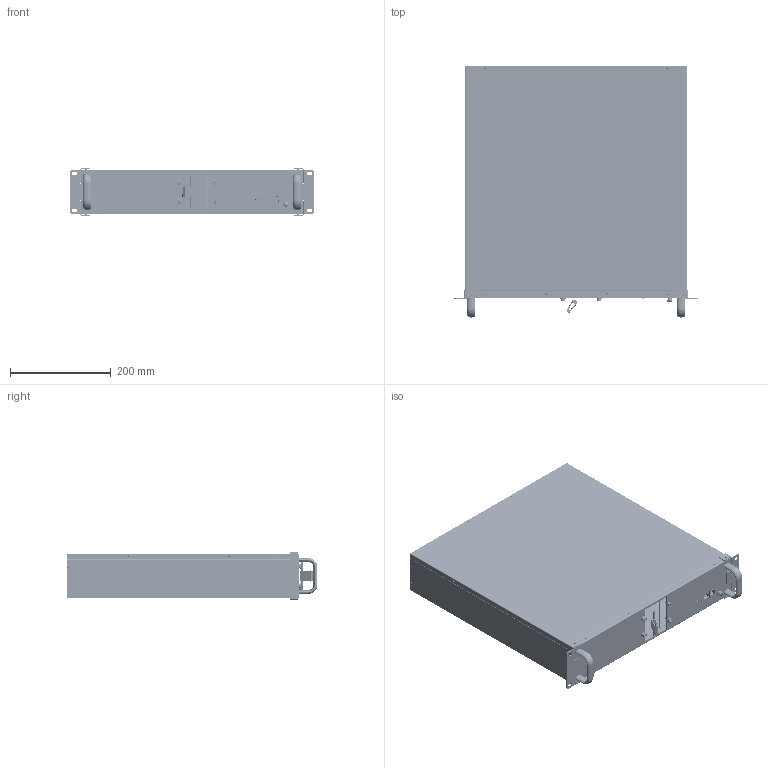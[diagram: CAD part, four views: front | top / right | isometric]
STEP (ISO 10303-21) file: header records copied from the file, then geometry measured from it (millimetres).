
FILE_DESCRIPTION((''),'2;1');
FILE_NAME('950-0049_BATTERY_MODULE_COMBINE_ASM','2023-11-24T11:39:17',('Administrator'),(''),'CREO PARAMETRIC BY PTC INC, 2019224','CREO PARAMETRIC BY PTC INC, 2019224','');
FILE_SCHEMA(('AUTOMOTIVE_DESIGN { 1 0 10303 214 1 1 1 1 }'));
Products named in the file (74): XIANGTI_10_4; PEM_NUT_M4_1_4; DIBAN-01_5_4; PEM_NUT_M3_2_4; 51_2_4; 35_2_4; 22_1_4; ZHIJIA-07_1_1_4; XIANGTI-00_ASM_11_ASM_4_ASM; MIANBAN_7_1_4; MIANBAN_7_2_4; MIANBAN_7_3_4; MIANBAN_7_4_4; MIANBAN_7_5_4; MIANBAN_7_6_4; MIANBAN_7_7_4; MIANBAN_7_8_4; MIANBAN_7_9_4; MIANBAN_7_ASM_4_ASM; LASHOU_1_4; MIANBAN-00_ASM_4_ASM_4_ASM; FA2-B0-16-825-12B-BG_1_7_4; FA2-B0-16-825-12B-BG_1_8_4; FA2-B0-16-825-12B-BG_1_15_4; FA2-B0-16-825-12B-BG_1_16_4; FA2-B0-16-825-12B-BG_1_17_4; FA2-B0-16-825-12B-BG_1_18_4; FA2-B0-16-825-12B-BG_1_19_4; FA2-B0-16-825-12B-BG_1_21_4; FA2-B0-16-825-12B-BG_1_22_4; FA2-B0-16-825-12B-BG_1_ASM_4_ASM; GAIBAN_3_4; GAIBAN-1_ASM_2_ASM_4_ASM; COPPER-1_ASM_6_ASM_4_ASM; M6X14_ASM_3_ASM_4_ASM; COPPER-5_ASM_3_ASM_4_ASM; ZHIJIA01_ASM_4_ASM_4_ASM; ZHIJIA02_ASM_3_ASM_4_ASM; COPPER-6_ASM_7_ASM_4_ASM; CON_RJ45_TH_TOP_ENTRY_NOSHIEL_1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
Assembly tree (200 placements, depth 8):
  950-0049_BATTERY_MODULE_COMBINE_ASM
    2U-CONBINER_BOX-1217_ASM_5_ASM
      2U-JIXIANG_ASM_25_ASM_4_ASM
        XIANGTI-00_ASM_11_ASM_4_ASM
          XIANGTI_10_4
          PEM_NUT_M4_1_4  x8
          DIBAN-01_5_4
          PEM_NUT_M3_2_4  x24
          51_2_4  x2
          35_2_4  x8
          22_1_4  x2
          ZHIJIA-07_1_1_4
        MIANBAN-00_ASM_4_ASM_4_ASM
          MIANBAN_7_ASM_4_ASM
            MIANBAN_7_1_4
            MIANBAN_7_2_4
            MIANBAN_7_3_4
            MIANBAN_7_4_4
            MIANBAN_7_5_4
            MIANBAN_7_6_4
            MIANBAN_7_7_4
            MIANBAN_7_8_4
            MIANBAN_7_9_4
          LASHOU_1_4  x2
          PEM_NUT_M4_1_4  x4
        FA2-B0-16-825-12B-BG_1_ASM_4_ASM
          FA2-B0-16-825-12B-BG_1_7_4
          FA2-B0-16-825-12B-BG_1_8_4
          FA2-B0-16-825-12B-BG_1_15_4
          FA2-B0-16-825-12B-BG_1_16_4
          FA2-B0-16-825-12B-BG_1_17_4
          FA2-B0-16-825-12B-BG_1_18_4
          FA2-B0-16-825-12B-BG_1_19_4
          FA2-B0-16-825-12B-BG_1_21_4
          FA2-B0-16-825-12B-BG_1_22_4
        GAIBAN-1_ASM_2_ASM_4_ASM
          GAIBAN_3_4
          PEM_NUT_M4_1_4  x4
        COPPER-1_ASM_6_ASM_4_ASM
        M6X14_ASM_3_ASM_4_ASM  x25
        COPPER-5_ASM_3_ASM_4_ASM
        ZHIJIA01_ASM_4_ASM_4_ASM
        ZHIJIA02_ASM_3_ASM_4_ASM
        COPPER-6_ASM_7_ASM_4_ASM
        PCB3_ASM_1_ASM_4_ASM
          PCB_ASM_1_ASM_4_ASM
            P2_ASM_1_ASM_4_ASM
              CON_RJ45_TH_TOP_ENTRY_NOSHIEL_1
            SW1_ASM_1_ASM_4_ASM
              SW-PB_TH_6X6-43387_1_4
            R1_ASM_1_ASM_4_ASM
              RES0805_1_4
            P1_ASM_1_ASM_4_ASM
              CON_RJ45_TH_TOP_ENTRY_NOSHIEL_1
            D1_ASM_1_ASM_4_ASM
              LIGHTPIPE-VLP-650-R_ASM_1_ASM_4_ASM
                LIGHTPIPE-VLP-650-R_3_1_4
              6081118928_ASM_1_ASM_4_ASM
                CYLINDER_1_4
              5239722144_ASM_1_ASM_4_ASM
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Bounding box: 482.6 x 497.27 x 93.5 mm (x, y, z)
Volume: 756410.6 mm3; surface area: 1237701.4 mm2
Topology: 158 solids, 162 shells, 8352 faces, 21815 edges, 13951 vertices
Faces by surface type: plane 5117, cylinder 1845, cone 1293, sphere 40, torus 24, bspline 13, extrusion 12, revolution 8
Entity records: 94340 total; most frequent: CARTESIAN_POINT 22040, DIRECTION 12806, ORIENTED_EDGE 10984, EDGE_CURVE 5492, AXIS2_PLACEMENT_3D 4826, VERTEX_POINT 3472, VECTOR 3150, LINE 3144
